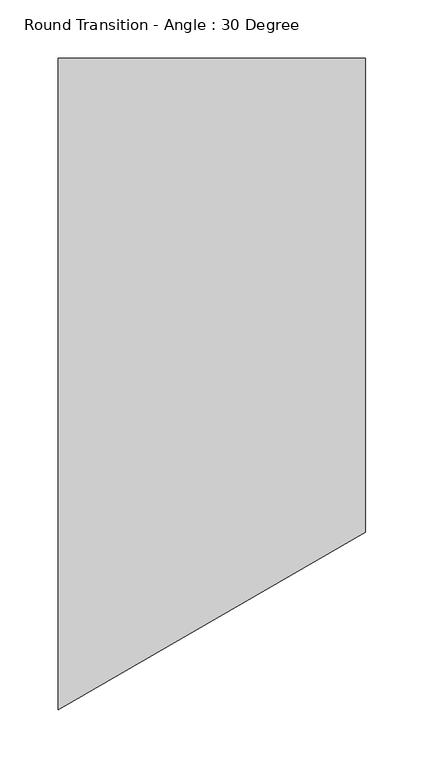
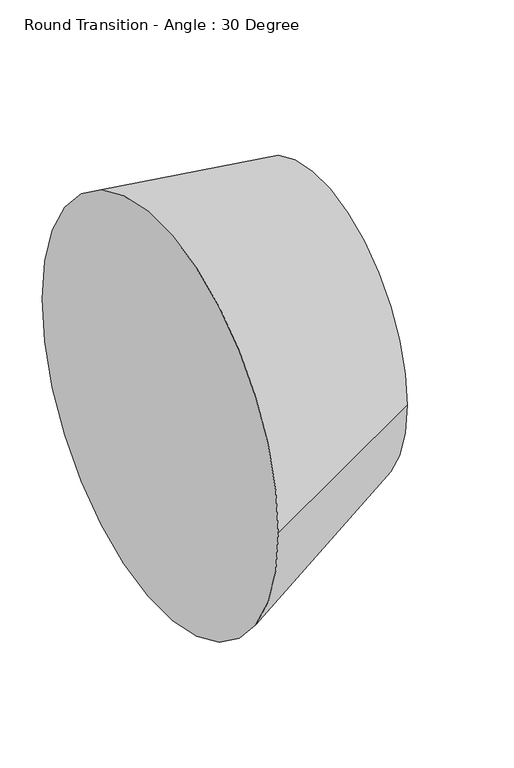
"""IFC4 building model written with IfcOpenShell, lengths in millimetres: duct fitting geometry, Round Transition - Angle : 30 Degree."""

from ifc_helpers import new_model, si_unit, frame, origin, place, context, project, spatial, circle_curve, source, transform, mapped, element, save
from ifc_brep_helpers import plane_surface, spline_surface, advanced_brep


def round_transition_angle_30_degree_d5e024f3(model_context):
    return source(origin(), model_context, "Body", "AdvancedBrep", [
        advanced_brep(
        [(263.9645431, -127.0, 0.0), (263.9645431, 279.4, 0.0), (0.0, -279.4, 0.0), (0.0, 279.4, 0.0)],
        [
            (0, 1, circle_curve(frame((263.9645431, 76.2, 0.0), z_axis=(1.0, 0.0, 0.0), x_axis=(0.0, 1.0, 0.0)), 203.2)),
            (1, 0, circle_curve(frame((263.9645431, 76.2, 0.0), z_axis=(1.0, 0.0, 0.0), x_axis=(0.0, 1.0, 0.0)), 203.2)),
            (2, 3, circle_curve(frame((0.0, 0.0, 0.0), z_axis=(-1.0, 0.0, 0.0), x_axis=(0.0, 1.0, 0.0)), 279.4)),
            (3, 2, circle_curve(frame((0.0, 0.0, 0.0), z_axis=(-1.0, 0.0, 0.0), x_axis=(0.0, 1.0, 0.0)), 279.4)),
            (3, 1),
            (0, 2),
        ],
        [
            plane_surface(frame((263.9645431, 76.2, 0.0), z_axis=(1.0, 0.0, 0.0), x_axis=(0.0, 0.0, -1.0))),
            plane_surface(frame((0.0, 0.0, 0.0), z_axis=(-1.0, 0.0, 0.0), x_axis=(0.0, 0.0, -1.0))),
            spline_surface(2, 1, [[(0.0, -279.4, 0.0), (263.9645431, -127.0, 0.0)], [(0.0, -279.4, -279.4), (263.9645431, -126.99999999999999, -203.2)], [(0.0, 0.0, -279.4), (263.9645431, 76.2, -203.2)], [(0.0, 279.4, -279.4), (263.9645431, 279.4, -203.2)], [(0.0, 279.4, 0.0), (263.9645431, 279.4, 0.0)]], [3, 2, 3], [2, 2], [0.0, 1.0, 2.0], [0.0, 1.0], weights=[[1.0, 1.0], [0.7071067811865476, 0.7071067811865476], [1.0, 1.0], [0.7071067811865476, 0.7071067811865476], [1.0, 1.0]]),
            spline_surface(2, 1, [[(0.0, 279.4, 0.0), (263.9645431, 279.4, 0.0)], [(0.0, 279.4, 279.4), (263.9645431, 279.4, 203.2)], [(0.0, 0.0, 279.4), (263.9645431, 76.2, 203.2)], [(0.0, -279.4, 279.4), (263.9645431, -126.99999999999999, 203.2)], [(0.0, -279.4, 0.0), (263.9645431, -127.0, 0.0)]], [3, 2, 3], [2, 2], [0.0, 1.0, 2.0], [0.0, 1.0], weights=[[1.0, 1.0], [0.7071067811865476, 0.7071067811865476], [1.0, 1.0], [0.7071067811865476, 0.7071067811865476], [1.0, 1.0]]),
        ],
        [
            (0, [[1, 2]]),
            (1, [[3, 4]]),
            (2, [[-4, 5, -1, 6]]),
            (3, [[-3, -6, -2, -5]]),
        ],
    ),
    ])


if __name__ == "__main__":
    model = new_model("IFC4")
    model_context = context("Model", 3, world=origin())
    ifc_project = project(units=[si_unit("LENGTHUNIT", "METRE", prefix="MILLI")], contexts=[model_context])
    site = spatial("IfcSite", under=ifc_project)
    building = spatial("IfcBuilding", under=site)
    placement = place(None, origin())
    round_transition_angle_30_degree_shape = round_transition_angle_30_degree_d5e024f3(model_context)
    element("IfcDuctFitting", 1, ObjectType="Round Transition - Angle : 30 Degree", at=placement, inside=building, context=model_context, shape_type="MappedRepresentation", body=[
        mapped(round_transition_angle_30_degree_shape, transform((0.0, 0.0, 0.0), x_axis=(1.0, 0.0, 0.0), y_axis=(0.0, 1.0, 0.0), z_axis=(0.0, 0.0, 1.0))),
    ])
    save(model, "model.ifc")
